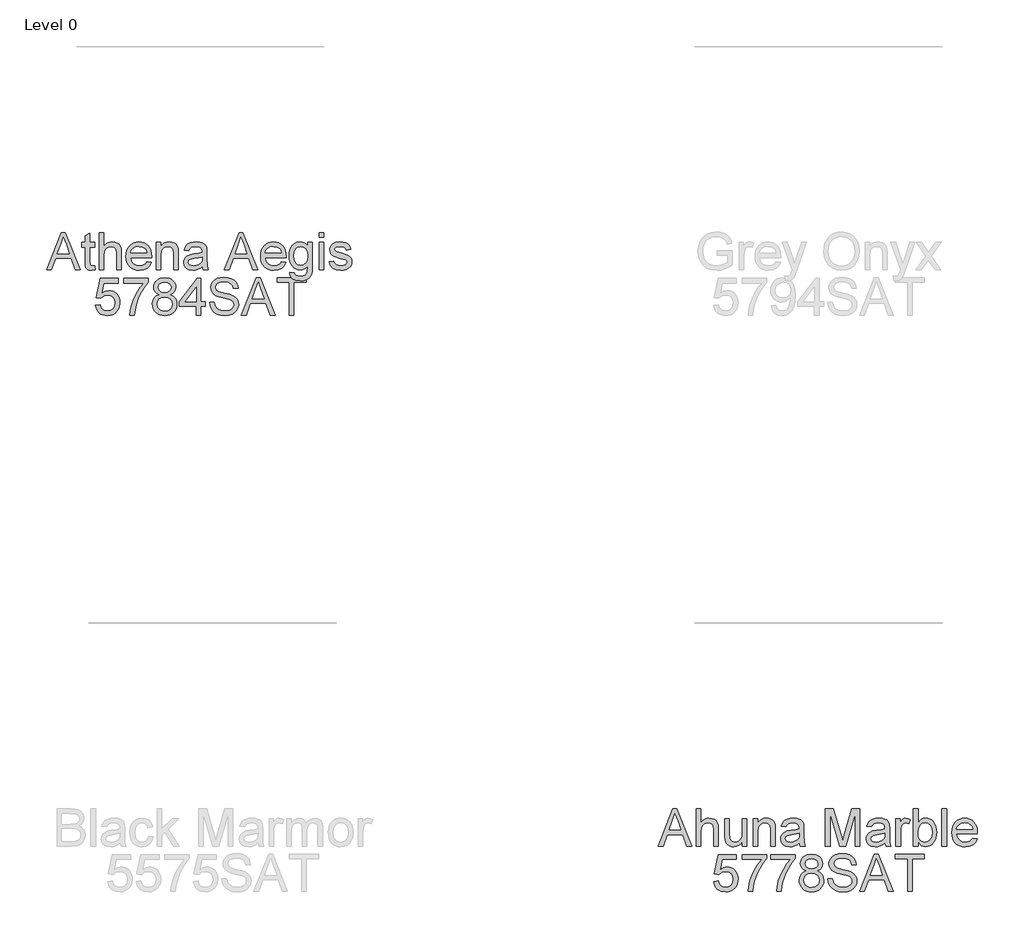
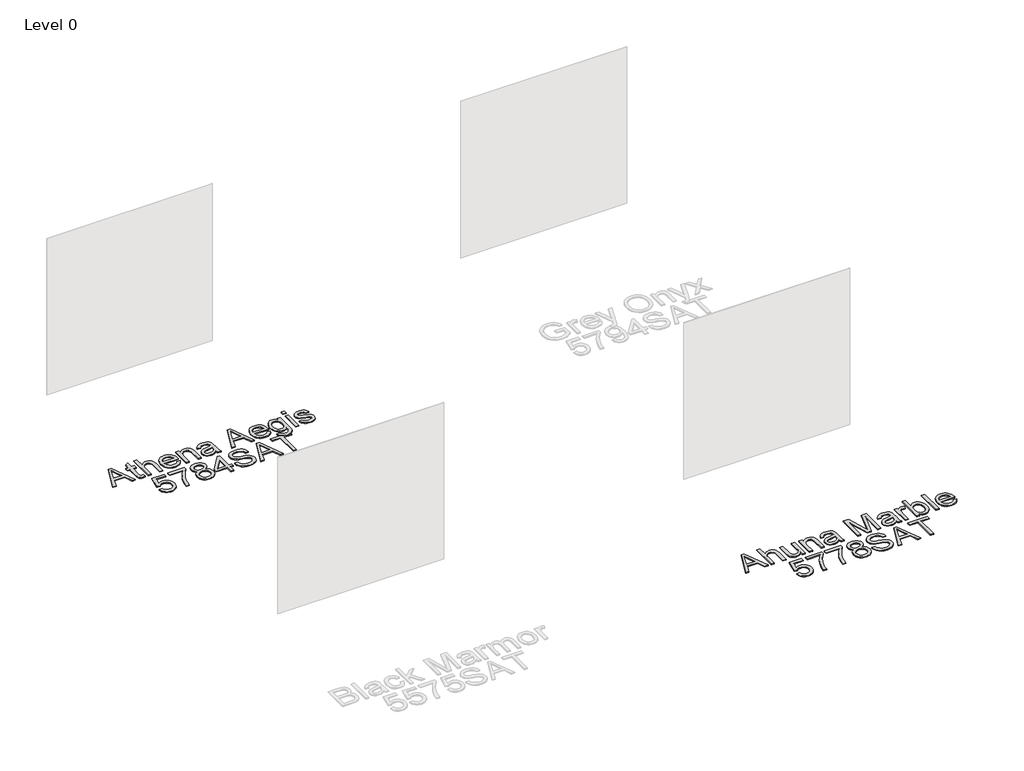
# One storey, part 5 of 29: 2 proxies.
"""IFC4 building model written with IfcOpenShell, lengths in millimetres."""

from ifc_helpers import new_model, si_unit, origin, origin_with_axes, place, context, project, spatial, polyline, outline, extrude, element, save

model = new_model("IFC4")

# Units and contexts
model_context = context("Model", 3, world=origin())
ifc_project = project(units=[si_unit("LENGTHUNIT", "METRE", prefix="MILLI")], contexts=[model_context])

# Site, building, storey
site = spatial("IfcSite", under=ifc_project)
building = spatial("IfcBuilding", under=site)
storey = spatial("IfcBuildingStorey", under=building, Name="Level 0", Elevation=0.0)

# Proxies
placement = place(None, origin())
element("IfcBuildingElementProxy", 1, Name="300mm Arial", ObjectType="300mm Arial", at=placement, inside=storey, context=model_context, shape_type="SweptSolid", body=[
    extrude(outline(polyline([(-10693.5841652, -27361.9454346), (-10573.2867528, -27060.5765041), (-10541.2074428, -27060.5765041), (-10420.9100304, -27361.9454346), (-10460.7148623, -27361.9454346), (-10495.2221934, -27267.7676438), (-10619.3455786, -27267.7676438), (-10653.7793333, -27361.9454346), (-10693.5841652, -27361.9454346)]), holes=[polyline([(-10605.5132156, -27230.0965275), (-10508.98098, -27230.0965275), (-10536.1306713, -27156.0050937), (-10557.2470978, -27098.2476204), (-10576.0090796, -27149.5303705), (-10605.5132156, -27230.0965275)])]), origin_with_axes(), (0.0, 0.0, 1.0), 10.0),
    extrude(outline(polyline([(-10305.3215075, -27330.5283122), (-10300.612618, -27363.0490805), (-10328.7923788, -27366.6543241), (-10346.8737789, -27365.0908256), (-10360.356654, -27360.4003302), (-10369.8847977, -27353.171449), (-10376.1020034, -27343.9927932), (-10379.5233059, -27328.2290497), (-10380.6637401, -27301.2449053), (-10380.6637401, -27178.2987426), (-10408.9170773, -27178.2987426), (-10408.9170773, -27140.6276263), (-10380.6637401, -27140.6276263), (-10380.6637401, -27086.8432786), (-10342.9926238, -27064.6967824), (-10342.9926238, -27140.6276263), (-10305.3215075, -27140.6276263), (-10305.3215075, -27178.2987426), (-10342.9926238, -27178.2987426), (-10342.9926238, -27300.1412594), (-10341.006061, -27319.5654287), (-10334.5681261, -27326.444822), (-10321.7290445, -27328.9832078), (-10305.3215075, -27330.5283122)])), origin_with_axes(), (0.0, 0.0, 1.0), 10.0),
    extrude(outline(polyline([(-10267.6503912, -27361.9454346), (-10267.6503912, -27060.5765041), (-10229.9792749, -27060.5765041), (-10229.9792749, -27171.382561), (-10216.1423133, -27155.8671379), (-10200.6038976, -27144.7846928), (-10183.3640276, -27138.1352257), (-10164.4227033, -27135.9187367), (-10141.6692019, -27138.3375608), (-10122.1162739, -27145.5940332), (-10106.7204124, -27157.1179367), (-10096.4381106, -27172.3390542), (-10090.6439692, -27193.2531457), (-10088.7125887, -27221.8559708), (-10088.7125887, -27361.9454346), (-10126.383705, -27361.9454346), (-10126.383705, -27225.7555199), (-10129.3819433, -27202.174284), (-10138.3766581, -27186.0242645), (-10152.8712087, -27176.6984559), (-10172.3689544, -27173.589853), (-10188.2890478, -27175.6867804), (-10203.2342538, -27181.9775625), (-10215.613483, -27191.8551941), (-10223.8356456, -27204.7126698), (-10228.4433676, -27221.8007885), (-10229.9792749, -27244.3703489), (-10229.9792749, -27361.9454346), (-10267.6503912, -27361.9454346)])), origin_with_axes(), (0.0, 0.0, 1.0), 10.0),
    extrude(outline(polyline([(-9881.9629075, -27296.020981), (-9845.0275551, -27300.7298706), (-9858.3356863, -27328.5601435), (-9879.5716745, -27349.3638703), (-9908.2572731, -27362.3317106), (-9943.9142354, -27366.6543241), (-9967.2885377, -27364.7896222), (-9988.1152572, -27359.1955166), (-10006.3943938, -27349.8720073), (-10022.1259476, -27336.8190943), (-10034.7764897, -27320.400061), (-10043.8125912, -27300.9781909), (-10049.2342521, -27278.553484), (-10051.0414724, -27253.1259404), (-10049.215858, -27226.8361733), (-10043.7390148, -27203.6642061), (-10034.6109428, -27183.6100389), (-10021.831642, -27166.6736715), (-10006.1414749, -27153.2183875), (-9988.2808041, -27143.6074704), (-9968.2496294, -27137.8409201), (-9946.047951, -27135.9187367), (-9924.5613432, -27137.8363216), (-9905.1302761, -27143.5890763), (-9887.7547496, -27153.1770008), (-9872.4347638, -27166.6000951), (-9859.9290752, -27183.4996743), (-9850.9964405, -27203.5170533), (-9845.6368597, -27226.6522323), (-9843.8503328, -27252.9052112), (-9844.0710619, -27263.0587542), (-10013.3703561, -27263.0587542), (-10006.8496478, -27291.2569092), (-9991.7021066, -27311.9870596), (-9969.8407191, -27324.7341707), (-9943.1784715, -27328.9832078), (-9923.1289027, -27327.0150391), (-9906.2431191, -27321.1105331), (-9892.5211207, -27310.9018077), (-9881.9629075, -27296.020981)]), holes=[polyline([(-10013.3703561, -27225.3876379), (-9881.5214491, -27225.3876379), (-9886.6166147, -27205.485222), (-9896.6046109, -27191.2481888), (-9918.567166, -27178.004437), (-9946.1951038, -27173.589853), (-9971.5881585, -27177.1123231), (-9992.5850234, -27187.6797334), (-10007.1807416, -27204.1516498), (-10013.3703561, -27225.3876379)])]), origin_with_axes(), (0.0, 0.0, 1.0), 10.0),
    extrude(outline(polyline([(-9806.1792164, -27361.9454346), (-9806.1792164, -27140.6276263), (-9768.5081001, -27140.6276263), (-9768.5081001, -27171.5297138), (-9755.4206982, -27155.9499114), (-9739.7029399, -27144.821481), (-9721.3548254, -27138.1444228), (-9700.3763546, -27135.9187367), (-9681.8075109, -27137.7121614), (-9664.8021657, -27143.0924356), (-9650.6203148, -27151.3881746), (-9640.521954, -27161.9279938), (-9629.2279768, -27189.629508), (-9627.241414, -27226.0498255), (-9627.241414, -27361.9454346), (-9664.9125303, -27361.9454346), (-9664.9125303, -27231.1265971), (-9669.2535378, -27197.7964883), (-9675.2592114, -27187.8728715), (-9684.594217, -27180.1749407), (-9696.5595789, -27175.2361249), (-9710.4563213, -27173.589853), (-9732.520044, -27177.2870671), (-9751.328011, -27188.3787092), (-9758.8443, -27197.4332048), (-9764.2130778, -27209.8078354), (-9768.5081001, -27244.5175017), (-9768.5081001, -27361.9454346), (-9806.1792164, -27361.9454346)])), origin_with_axes(), (0.0, 0.0, 1.0), 10.0),
    extrude(outline(polyline([(-9434.1769429, -27333.6920973), (-9452.1755695, -27349.124747), (-9470.707625, -27359.2231078), (-9490.1961737, -27364.79652), (-9511.0642799, -27366.6543241), (-9542.5457817, -27362.1845578), (-9565.7683326, -27348.7752591), (-9580.0881393, -27328.4129907), (-9584.8614081, -27303.0843153), (-9583.0587864, -27287.4677246), (-9577.650921, -27273.2858737), (-9569.3091968, -27261.1457679), (-9558.7049983, -27251.6544124), (-9532.3278592, -27239.2935774), (-9499.7335145, -27233.6281946), (-9461.2162696, -27227.6685063), (-9434.3976721, -27220.6787484), (-9434.1769429, -27212.2910389), (-9436.770511, -27195.4788317), (-9444.5512152, -27184.4791601), (-9461.9520336, -27176.3121798), (-9486.195457, -27173.589853), (-9508.6362587, -27175.4016718), (-9524.3080317, -27180.8371283), (-9534.9950037, -27190.8895038), (-9542.4814023, -27206.5520798), (-9580.1525186, -27201.8431903), (-9573.6134161, -27181.2417985), (-9563.8553462, -27165.0549907), (-9549.9678009, -27152.6757616), (-9531.0402723, -27143.4971058), (-9507.8912977, -27137.813329), (-9481.3394147, -27135.9187367), (-9455.8727836, -27137.5925998), (-9435.6852591, -27142.614189), (-9420.4641416, -27150.164967), (-9409.8967312, -27159.4263962), (-9402.8885792, -27170.8767233), (-9398.3452366, -27184.9941949), (-9396.5058266, -27217.9564216), (-9396.5058266, -27264.8245878), (-9394.5928402, -27330.2707948), (-9387.0880475, -27361.9454346), (-9424.7591638, -27361.9454346), (-9434.1769429, -27333.6920973)]), holes=[polyline([(-9434.1769429, -27258.3498647), (-9494.9510485, -27269.9013594), (-9527.3614523, -27276.0082005), (-9542.0399439, -27285.9410143), (-9547.1902918, -27300.435565), (-9544.3851916, -27311.6375717), (-9535.969891, -27320.8162275), (-9522.1283309, -27326.9414627), (-9503.0444524, -27328.9832078), (-9482.8109427, -27326.7299306), (-9464.9318777, -27319.9700989), (-9450.4373271, -27310.0096939), (-9440.3573604, -27298.1546966), (-9435.8875942, -27285.9410143), (-9434.3976721, -27269.0184426), (-9434.1769429, -27258.3498647)])]), origin_with_axes(), (0.0, 0.0, 1.0), 10.0),
    extrude(outline(polyline([(-9257.372856, -27361.9454346), (-9137.0754436, -27060.5765041), (-9104.9961336, -27060.5765041), (-8984.6987212, -27361.9454346), (-9024.5035531, -27361.9454346), (-9059.0108842, -27267.7676438), (-9183.1342694, -27267.7676438), (-9217.5680242, -27361.9454346), (-9257.372856, -27361.9454346)]), holes=[polyline([(-9169.3019064, -27230.0965275), (-9072.7696709, -27230.0965275), (-9099.9193621, -27156.0050937), (-9121.0357886, -27098.2476204), (-9139.7977704, -27149.5303705), (-9169.3019064, -27230.0965275)])]), origin_with_axes(), (0.0, 0.0, 1.0), 10.0),
    extrude(outline(polyline([(-8794.2094241, -27296.020981), (-8757.2740718, -27300.7298706), (-8770.582203, -27328.5601435), (-8791.8181911, -27349.3638703), (-8820.5037897, -27362.3317106), (-8856.1607521, -27366.6543241), (-8879.5350544, -27364.7896222), (-8900.3617738, -27359.1955166), (-8918.6409105, -27349.8720073), (-8934.3724643, -27336.8190943), (-8947.0230064, -27320.400061), (-8956.0591079, -27300.9781909), (-8961.4807688, -27278.553484), (-8963.2879891, -27253.1259404), (-8961.4623747, -27226.8361733), (-8955.9855315, -27203.6642061), (-8946.8574595, -27183.6100389), (-8934.0781587, -27166.6736715), (-8918.3879916, -27153.2183875), (-8900.5273207, -27143.6074704), (-8880.4961461, -27137.8409201), (-8858.2944677, -27135.9187367), (-8836.8078599, -27137.8363216), (-8817.3767928, -27143.5890763), (-8800.0012663, -27153.1770008), (-8784.6812804, -27166.6000951), (-8772.1755919, -27183.4996743), (-8763.2429572, -27203.5170533), (-8757.8833764, -27226.6522323), (-8756.0968494, -27252.9052112), (-8756.3175786, -27263.0587542), (-8925.6168728, -27263.0587542), (-8919.0961644, -27291.2569092), (-8903.9486233, -27311.9870596), (-8882.0872357, -27324.7341707), (-8855.4249881, -27328.9832078), (-8835.3754194, -27327.0150391), (-8818.4896358, -27321.1105331), (-8804.7676374, -27310.9018077), (-8794.2094241, -27296.020981)]), holes=[polyline([(-8925.6168728, -27225.3876379), (-8793.7679657, -27225.3876379), (-8798.8631314, -27205.485222), (-8808.8511275, -27191.2481888), (-8830.8136826, -27178.004437), (-8858.4416205, -27173.589853), (-8883.8346752, -27177.1123231), (-8904.8315401, -27187.6797334), (-8919.4272582, -27204.1516498), (-8925.6168728, -27225.3876379)])]), origin_with_axes(), (0.0, 0.0, 1.0), 10.0),
    extrude(outline(polyline([(-8727.8435122, -27380.7809927), (-8690.1723959, -27385.4898822), (-8686.0153293, -27397.2621061), (-8677.9587136, -27405.35551), (-8662.1213937, -27411.6462921), (-8641.3912433, -27413.7432195), (-8619.2815354, -27411.3703806), (-8602.8372102, -27404.251864), (-8591.4328684, -27392.8475221), (-8584.4431105, -27377.6172075), (-8581.8679365, -27333.6920973), (-8594.4035155, -27346.0529324), (-8608.3922284, -27354.8821002), (-8623.8340751, -27360.179601), (-8640.7290557, -27361.9454346), (-8661.3833305, -27359.8898939), (-8679.5681974, -27353.723272), (-8695.2836563, -27343.4455687), (-8708.5297074, -27329.0567842), (-8719.0396362, -27311.7939216), (-8726.5467282, -27292.8939841), (-8731.0509833, -27272.3569717), (-8732.5524017, -27250.1828844), (-8729.8576661, -27219.7682405), (-8721.7734593, -27191.8000118), (-8708.5848897, -27168.0992142), (-8690.5770661, -27150.4868637), (-8668.3661906, -27139.5607685), (-8642.5684657, -27135.9187367), (-8624.9515167, -27137.9788759), (-8608.9624454, -27144.1592934), (-8594.6012521, -27154.4599893), (-8581.8679365, -27168.8809635), (-8581.8679365, -27140.6276263), (-8544.1968202, -27140.6276263), (-8544.1968202, -27331.7055345), (-8546.7719942, -27375.8237828), (-8554.4975161, -27404.8772634), (-8567.8056472, -27424.1450829), (-8587.128649, -27438.9063479), (-8612.0434572, -27448.2873388), (-8642.1270073, -27451.4143358), (-8677.1769644, -27447.0089489), (-8704.7773111, -27433.7927882), (-8715.1722767, -27423.8714707), (-8722.4816321, -27411.7290655), (-8726.7053773, -27397.3655729), (-8727.8435122, -27380.7809927)]), holes=[polyline([(-8694.8812854, -27247.6077105), (-8690.8621746, -27282.1610268), (-8678.8048422, -27305.9170067), (-8660.6774569, -27319.6849904), (-8638.4481874, -27324.2743182), (-8616.3844647, -27319.7125815), (-8598.1651089, -27306.0273713), (-8585.9422296, -27282.5748941), (-8581.8679365, -27248.7113564), (-8586.0617912, -27216.0526323), (-8598.6433555, -27192.5357758), (-8617.1294257, -27178.3263337), (-8639.0367985, -27173.589853), (-8660.5486982, -27178.2527573), (-8678.584113, -27192.2414702), (-8690.8069923, -27215.4088388), (-8694.8812854, -27247.6077105)])]), origin_with_axes(), (0.0, 0.0, 1.0), 10.0),
    extrude(outline(polyline([(-8487.6901457, -27361.9454346), (-8487.6901457, -27140.6276263), (-8450.0190294, -27140.6276263), (-8450.0190294, -27361.9454346), (-8487.6901457, -27361.9454346)])), origin_with_axes(), (0.0, 0.0, 1.0), 10.0),
    extrude(outline(polyline([(-8487.6901457, -27098.2476204), (-8487.6901457, -27060.5765041), (-8450.0190294, -27060.5765041), (-8450.0190294, -27098.2476204), (-8487.6901457, -27098.2476204)])), origin_with_axes(), (0.0, 0.0, 1.0), 10.0),
    extrude(outline(polyline([(-8407.6390236, -27296.020981), (-8369.9679073, -27291.3120915), (-8364.0266131, -27307.4253229), (-8352.5303007, -27319.2711231), (-8335.4053938, -27326.5551866), (-8312.578316, -27328.9832078), (-8290.0271497, -27326.7575217), (-8274.1714357, -27320.0804635), (-8264.7904449, -27310.405167), (-8261.6634479, -27299.1847662), (-8264.808839, -27289.5830461), (-8274.2450121, -27282.2621944), (-8313.0197744, -27271.5200401), (-8369.7471781, -27253.0891522), (-8384.1037729, -27243.8277229), (-8394.5056364, -27231.5680555), (-8400.8240096, -27217.091899), (-8402.930134, -27201.1810027), (-8401.2378769, -27186.5852845), (-8396.1611053, -27173.1116064), (-8388.1596719, -27161.2933973), (-8377.6934292, -27151.6640861), (-8353.7443113, -27140.5172617), (-8321.3339075, -27135.9187367), (-8296.8145725, -27137.7673437), (-8275.4958109, -27143.3131648), (-8258.3525099, -27152.013574), (-8246.3595569, -27163.3259454), (-8238.4133058, -27178.0872104), (-8233.4101107, -27197.1343007), (-8271.081227, -27201.8431903), (-8275.8361018, -27189.988193), (-8285.2446838, -27181.0578575), (-8299.3989436, -27175.4568541), (-8318.3908516, -27173.589853), (-8340.0223129, -27175.3740807), (-8354.4432871, -27180.7267637), (-8362.5550851, -27188.4522856), (-8365.2590177, -27197.3550299), (-8360.7708574, -27208.3179134), (-8346.7177652, -27216.6320465), (-8314.2705732, -27224.651874), (-8258.9779093, -27242.3837861), (-8244.3729941, -27250.8634661), (-8233.2997461, -27262.4701431), (-8226.3191852, -27277.2406052), (-8223.9923316, -27295.2116406), (-8226.7238554, -27313.7896814), (-8234.9184268, -27331.2640762), (-8248.2633462, -27346.2644645), (-8266.4459138, -27357.420486), (-8288.4084689, -27364.3458646), (-8313.0933508, -27366.6543241), (-8351.0771668, -27362.2029519), (-8378.7970752, -27348.8488355), (-8397.3015395, -27326.7391276), (-8407.6390236, -27296.020981)])), origin_with_axes(), (0.0, 0.0, 1.0), 10.0),
    extrude(outline(polyline([(-10298.2581732, -27647.8187659), (-10260.5870569, -27643.1098764), (-10253.6708754, -27665.7254221), (-10241.6043459, -27681.9214269), (-10224.4426509, -27691.6611027), (-10202.2409725, -27694.9076613), (-10175.238434, -27690.3919098), (-10155.0049243, -27676.8446554), (-10142.3681777, -27655.8293964), (-10138.1559289, -27628.9096314), (-10142.1014633, -27603.5625619), (-10153.9380665, -27584.1751808), (-10173.757709, -27571.869528), (-10201.6523613, -27567.7676438), (-10219.9268994, -27569.4047187), (-10234.7249526, -27574.3159433), (-10255.8781674, -27591.3120915), (-10293.5492837, -27586.6032019), (-10260.5870569, -27431.2098472), (-10114.6114812, -27431.2098472), (-10114.6114812, -27468.8809635), (-10230.1264277, -27468.8809635), (-10246.2396591, -27551.8751416), (-10219.3290911, -27535.541181), (-10191.1309362, -27530.0965275), (-10172.785121, -27531.7841861), (-10155.9338263, -27536.8471621), (-10140.5770523, -27545.2854554), (-10126.7147988, -27557.0990659), (-10115.2391799, -27571.5660254), (-10107.0423092, -27587.9643653), (-10102.1241867, -27606.2940857), (-10100.4848126, -27626.5551866), (-10106.3893186, -27664.2263029), (-10113.7699511, -27681.020116), (-10124.1028367, -27696.4527657), (-10139.7562156, -27712.2578959), (-10158.0215566, -27723.5472746), (-10178.8988599, -27730.3209019), (-10202.3881253, -27732.5787776), (-10239.3878569, -27726.7754392), (-10255.0665277, -27719.5212661), (-10268.8644018, -27709.3654237), (-10280.3446193, -27696.8137499), (-10289.0703204, -27682.3720823), (-10298.2581732, -27647.8187659)])), origin_with_axes(), (0.0, 0.0, 1.0), 10.0),
    extrude(outline(polyline([(-10067.5225858, -27468.8809635), (-10067.5225858, -27431.2098472), (-9869.7492252, -27431.2098472), (-9869.7492252, -27461.6704764), (-9897.9381831, -27497.3458329), (-9925.8512295, -27542.7148799), (-9950.471732, -27593.6389451), (-9968.7830583, -27645.979356), (-9977.759379, -27685.1403943), (-9982.7625741, -27727.8698881), (-10020.4336904, -27727.8698881), (-10016.3593973, -27689.0399435), (-10005.4608932, -27642.8891472), (-9988.0324837, -27593.9700389), (-9964.3684744, -27546.8351583), (-9936.7405365, -27504.2252262), (-9907.4203415, -27468.8809635), (-10067.5225858, -27468.8809635)])), origin_with_axes(), (0.0, 0.0, 1.0), 10.0),
    extrude(outline(polyline([(-9781.8990048, -27561.8815319), (-9802.0681352, -27551.948718), (-9816.2223949, -27538.484237), (-9824.5825133, -27521.7640003), (-9827.3692194, -27502.0639194), (-9825.8517061, -27486.7002476), (-9821.2991664, -27472.6149657), (-9813.7116003, -27459.8080738), (-9803.0890077, -27448.2795718), (-9789.9418249, -27438.7514281), (-9774.7804882, -27431.9456112), (-9738.4153529, -27426.5009576), (-9701.8294885, -27432.0743699), (-9686.5026049, -27439.0411351), (-9673.153087, -27448.7946065), (-9662.3373563, -27460.5484363), (-9654.6118344, -27473.5162766), (-9649.9765213, -27487.6981275), (-9648.4314169, -27503.093989), (-9651.1813348, -27522.1594734), (-9659.4310886, -27538.5946016), (-9673.2726486, -27551.9763091), (-9692.7979855, -27561.8815319), (-9669.6122228, -27573.8284997), (-9652.7356363, -27591.4224561), (-9642.4441374, -27613.8172725), (-9639.0136378, -27640.1668204), (-9640.7150921, -27658.9563933), (-9645.8194547, -27676.1824678), (-9654.3267259, -27691.8450437), (-9666.2369055, -27705.9441212), (-9680.9245941, -27717.5967834), (-9697.7643925, -27725.9201135), (-9716.7563005, -27730.9141116), (-9737.9003181, -27732.5787776), (-9759.0443358, -27730.9072138), (-9778.0362438, -27725.8925224), (-9794.8760421, -27717.5347033), (-9809.5637308, -27705.8337566), (-9821.4739104, -27691.6358108), (-9829.9811815, -27675.7869946), (-9835.0855442, -27658.287308), (-9836.7869984, -27639.1367509), (-9833.2185431, -27611.7663304), (-9822.513177, -27589.2519523), (-9805.2227233, -27572.3661687), (-9781.8990048, -27561.8815319)]), holes=[polyline([(-9789.6981031, -27503.1675654), (-9786.359574, -27519.6118906), (-9776.3439866, -27532.7452778), (-9759.9456467, -27541.3537165), (-9737.4588597, -27544.2231961), (-9715.4963046, -27541.3721106), (-9699.346285, -27532.8188542), (-9689.4134712, -27520.1269254), (-9686.1025332, -27504.8598226), (-9689.5238358, -27489.0133057), (-9699.7877434, -27475.9075096), (-9716.1584922, -27467.1059329), (-9737.9003181, -27464.1720739), (-9759.7800998, -27467.0415535), (-9776.1232574, -27475.6499922), (-9786.3043917, -27488.2683446), (-9789.6981031, -27503.1675654)]), polyline([(-9799.1158821, -27637.8123757), (-9792.8251, -27666.1760775), (-9784.1154938, -27678.3437745), (-9770.5682393, -27687.4028686), (-9754.3446433, -27693.0314631), (-9737.6060125, -27694.9076613), (-9711.9646375, -27690.9621269), (-9692.7244091, -27679.1255237), (-9680.6946679, -27661.2004735), (-9676.6847541, -27638.9895981), (-9680.8234266, -27616.4016435), (-9693.2394439, -27598.0811202), (-9712.9211307, -27585.9410143), (-9738.8568113, -27581.8943124), (-9764.1395014, -27585.885832), (-9783.1865917, -27597.860391), (-9795.1335595, -27615.8314265), (-9799.1158821, -27637.8123757)])]), origin_with_axes(), (0.0, 0.0, 1.0), 10.0),
    extrude(outline(polyline([(-9483.6202831, -27727.8698881), (-9483.6202831, -27657.236545), (-9620.1780797, -27657.236545), (-9620.1780797, -27619.5654287), (-9474.202504, -27431.2098472), (-9445.9491668, -27431.2098472), (-9445.9491668, -27619.5654287), (-9408.2780505, -27619.5654287), (-9408.2780505, -27657.236545), (-9445.9491668, -27657.236545), (-9445.9491668, -27727.8698881), (-9483.6202831, -27727.8698881)]), holes=[polyline([(-9483.6202831, -27619.5654287), (-9483.6202831, -27503.1675654), (-9573.8249483, -27619.5654287), (-9483.6202831, -27619.5654287)])]), origin_with_axes(), (0.0, 0.0, 1.0), 10.0),
    extrude(outline(polyline([(-9375.3158237, -27624.2743182), (-9337.6447074, -27624.2743182), (-9333.3220939, -27645.1792126), (-9325.5046015, -27661.9822228), (-9313.3093134, -27675.3179451), (-9295.8533127, -27685.820976), (-9274.516157, -27692.63599), (-9250.6774037, -27694.9076613), (-9229.6897359, -27693.187813), (-9211.3140302, -27688.028268), (-9196.4240065, -27679.8612877), (-9185.8933844, -27669.1191335), (-9179.6301934, -27656.7858896), (-9177.5424631, -27643.8456404), (-9179.1059616, -27631.236485), (-9183.796457, -27620.3379809), (-9193.3246007, -27611.0397635), (-9209.4010439, -27603.2314681), (-9264.2522494, -27588.8472821), (-9300.2586996, -27579.3283355), (-9323.2973096, -27570.2692414), (-9342.0500943, -27557.5957066), (-9355.3398314, -27542.2366333), (-9363.2584913, -27524.5231153), (-9365.8980446, -27504.7862462), (-9362.6330919, -27482.7225236), (-9352.8382338, -27462.148723), (-9336.7709877, -27444.7111164), (-9314.6888709, -27432.0559758), (-9288.1829731, -27424.358045), (-9258.844384, -27421.7920681), (-9227.0593796, -27424.4776067), (-9199.2475008, -27432.5342224), (-9176.4020289, -27445.7963683), (-9159.5162453, -27464.0984975), (-9148.8292734, -27486.300176), (-9144.5802363, -27511.2609693), (-9182.2513526, -27511.2609693), (-9189.1675341, -27488.7833794), (-9203.5885083, -27472.5597834), (-9226.1212806, -27462.7373342), (-9257.372856, -27459.4631844), (-9289.3601955, -27462.700546), (-9311.3043565, -27472.4126306), (-9323.9962854, -27486.7048461), (-9328.2269283, -27503.6826002), (-9325.2286901, -27518.1587567), (-9316.2339753, -27529.8022219), (-9294.9703959, -27540.2132823), (-9254.7241057, -27550.845072), (-9213.1902284, -27560.9434328), (-9188.0638882, -27569.7542066), (-9166.5887767, -27583.4210227), (-9151.6067824, -27600.2884122), (-9142.8052057, -27620.172434), (-9139.8713468, -27642.8891472), (-9143.2466641, -27666.1116981), (-9153.372616, -27687.9546916), (-9169.8353353, -27706.7534616), (-9192.2209547, -27720.843342), (-9219.1407197, -27729.6449187), (-9249.2058757, -27732.5787776), (-9286.1136369, -27729.4149925), (-9316.4914927, -27719.923637), (-9340.6889309, -27704.067923), (-9359.0554395, -27681.8110623), (-9370.8460575, -27654.6981592), (-9375.3158237, -27624.2743182)])), origin_with_axes(), (0.0, 0.0, 1.0), 10.0),
    extrude(outline(polyline([(-9118.4606147, -27727.8698881), (-8998.1632022, -27426.5009576), (-8966.0838923, -27426.5009576), (-8845.7864798, -27727.8698881), (-8885.5913117, -27727.8698881), (-8920.0986429, -27633.6920973), (-9044.222028, -27633.6920973), (-9078.6557828, -27727.8698881), (-9118.4606147, -27727.8698881)]), holes=[polyline([(-9030.389665, -27596.020981), (-8933.8574295, -27596.020981), (-8961.0071207, -27521.9295472), (-8982.1235473, -27464.1720739), (-9000.885529, -27515.4548241), (-9030.389665, -27596.020981)])]), origin_with_axes(), (0.0, 0.0, 1.0), 10.0),
    extrude(outline(polyline([(-8730.197957, -27727.8698881), (-8730.197957, -27464.1720739), (-8829.0846373, -27464.1720739), (-8829.0846373, -27426.5009576), (-8593.6401603, -27426.5009576), (-8593.6401603, -27464.1720739), (-8692.5268406, -27464.1720739), (-8692.5268406, -27727.8698881), (-8730.197957, -27727.8698881)])), origin_with_axes(), (0.0, 0.0, 1.0), 10.0),
])
element("IfcBuildingElementProxy", 2, Name="300mm Arial", ObjectType="300mm Arial", at=placement, inside=storey, context=model_context, shape_type="SweptSolid", body=[
    extrude(outline(polyline([(-5747.7363949, -32022.860494), (-5627.4389825, -31721.4915635), (-5595.3596725, -31721.4915635), (-5475.0622601, -32022.860494), (-5514.867092, -32022.860494), (-5549.3744231, -31928.6827032), (-5673.4978083, -31928.6827032), (-5707.931563, -32022.860494), (-5747.7363949, -32022.860494)]), holes=[polyline([(-5659.6654453, -31891.0115869), (-5563.1332097, -31891.0115869), (-5590.282901, -31816.9201531), (-5611.3993275, -31759.1626798), (-5630.1613092, -31810.44543), (-5659.6654453, -31891.0115869)])]), origin_with_axes(), (0.0, 0.0, 1.0), 10.0),
    extrude(outline(polyline([(-5439.5248593, -32022.860494), (-5439.5248593, -31721.4915635), (-5401.853743, -31721.4915635), (-5401.853743, -31832.2976205), (-5388.0167815, -31816.7821973), (-5372.4783657, -31805.6997522), (-5355.2384957, -31799.0502852), (-5336.2971715, -31796.8337961), (-5313.5436701, -31799.2526203), (-5293.9907421, -31806.5090926), (-5278.5948806, -31818.0329961), (-5268.3125788, -31833.2541137), (-5262.5184374, -31854.1682051), (-5260.5870569, -31882.7710302), (-5260.5870569, -32022.860494), (-5298.2581732, -32022.860494), (-5298.2581732, -31886.6705794), (-5301.2564115, -31863.0893435), (-5310.2511262, -31846.9393239), (-5324.7456768, -31837.6135153), (-5344.2434226, -31834.5049125), (-5360.1635159, -31836.6018398), (-5375.108722, -31842.8926219), (-5387.4879511, -31852.7702535), (-5395.7101137, -31865.6277292), (-5400.3178357, -31882.7158479), (-5401.853743, -31905.2854083), (-5401.853743, -32022.860494), (-5439.5248593, -32022.860494)])), origin_with_axes(), (0.0, 0.0, 1.0), 10.0),
    extrude(outline(polyline([(-5067.5225858, -32022.860494), (-5067.5225858, -31984.8214957), (-5081.1526137, -32003.5236966), (-5097.0267218, -32016.8824116), (-5115.1449101, -32024.8976405), (-5135.5071785, -32027.5693835), (-5153.855293, -32025.6931853), (-5170.9342147, -32020.0645908), (-5185.2632184, -32011.6033049), (-5195.3615791, -32001.2290327), (-5206.58198, -31973.4907302), (-5208.789272, -31938.4683643), (-5208.789272, -31801.5426857), (-5171.1181557, -31801.5426857), (-5171.1181557, -31920.7364521), (-5168.8372873, -31959.1433324), (-5163.3466485, -31971.9548229), (-5153.9380665, -31981.6944987), (-5141.2369406, -31987.8473251), (-5125.8686703, -31989.8982672), (-5109.6174831, -31987.8013398), (-5094.4147597, -31981.5105577), (-5081.8791807, -31971.605335), (-5073.6294269, -31958.6650858), (-5069.0492961, -31940.9423707), (-5067.5225858, -31916.6897502), (-5067.5225858, -31801.5426857), (-5029.8514695, -31801.5426857), (-5029.8514695, -32022.860494), (-5067.5225858, -32022.860494)])), origin_with_axes(), (0.0, 0.0, 1.0), 10.0),
    extrude(outline(polyline([(-4978.0536846, -32022.860494), (-4978.0536846, -31801.5426857), (-4940.3825683, -31801.5426857), (-4940.3825683, -31832.4447733), (-4927.2951663, -31816.8649708), (-4911.5774081, -31805.7365404), (-4893.2292936, -31799.0594822), (-4872.2508228, -31796.8337961), (-4853.6819791, -31798.6272209), (-4836.6766338, -31804.0074951), (-4822.4947829, -31812.303234), (-4812.3964222, -31822.8430532), (-4801.1024449, -31850.5445674), (-4799.1158821, -31886.964885), (-4799.1158821, -32022.860494), (-4836.7869984, -32022.860494), (-4836.7869984, -31892.0416565), (-4841.128006, -31858.7115477), (-4847.1336796, -31848.7879309), (-4856.4686852, -31841.0900002), (-4868.4340471, -31836.1511844), (-4882.3307894, -31834.5049125), (-4904.3945121, -31838.2021265), (-4923.2024791, -31849.2937687), (-4930.7187681, -31858.3482643), (-4936.087546, -31870.7228949), (-4940.3825683, -31905.4325611), (-4940.3825683, -32022.860494), (-4978.0536846, -32022.860494)])), origin_with_axes(), (0.0, 0.0, 1.0), 10.0),
    extrude(outline(polyline([(-4606.0514111, -31994.6071568), (-4624.0500377, -32010.0398064), (-4642.5820932, -32020.1381672), (-4662.0706419, -32025.7115794), (-4682.9387481, -32027.5693835), (-4714.4202498, -32023.0996173), (-4737.6428007, -32009.6903186), (-4751.9626074, -31989.3280501), (-4756.7358763, -31963.9993748), (-4754.9332545, -31948.3827841), (-4749.5253892, -31934.2009331), (-4741.1836649, -31922.0608273), (-4730.5794664, -31912.5694718), (-4704.2023274, -31900.2086368), (-4671.6079826, -31894.5432541), (-4633.0907377, -31888.5835657), (-4606.2721403, -31881.5938078), (-4606.0514111, -31873.2060983), (-4608.6449791, -31856.3938912), (-4616.4256833, -31845.3942195), (-4633.8265017, -31837.2272392), (-4658.0699252, -31834.5049125), (-4680.5107269, -31836.3167313), (-4696.1824999, -31841.7521878), (-4706.8694718, -31851.8045633), (-4714.3558705, -31867.4671392), (-4752.0269868, -31862.7582497), (-4745.4878843, -31842.156858), (-4735.7298144, -31825.9700502), (-4721.8422691, -31813.590821), (-4702.9147404, -31804.4121652), (-4679.7657659, -31798.7283884), (-4653.2138829, -31796.8337961), (-4627.7472517, -31798.5076592), (-4607.5597273, -31803.5292485), (-4592.3386097, -31811.0800264), (-4581.7711994, -31820.3414556), (-4574.7630474, -31831.7917827), (-4570.2197047, -31845.9092543), (-4568.3802948, -31878.8714811), (-4568.3802948, -31925.7396473), (-4566.4673084, -31991.1858542), (-4558.9625157, -32022.860494), (-4596.633632, -32022.860494), (-4606.0514111, -31994.6071568)]), holes=[polyline([(-4606.0514111, -31919.2649241), (-4666.8255167, -31930.8164188), (-4699.2359204, -31936.9232599), (-4713.9144121, -31946.8560738), (-4719.06476, -31961.3506244), (-4716.2596598, -31972.5526311), (-4707.8443591, -31981.7312869), (-4694.0027991, -31987.8565221), (-4674.9189206, -31989.8982672), (-4654.6854108, -31987.64499), (-4636.8063459, -31980.8851583), (-4622.3117953, -31970.9247533), (-4612.2318286, -31959.069756), (-4607.7620623, -31946.8560738), (-4606.2721403, -31929.933502), (-4606.0514111, -31919.2649241)])]), origin_with_axes(), (0.0, 0.0, 1.0), 10.0),
    extrude(outline(polyline([(-4394.1513818, -32022.860494), (-4394.1513818, -31721.4915635), (-4329.3305743, -31721.4915635), (-4267.6735519, -31933.9066275), (-4255.2391405, -31978.2731962), (-4241.7746594, -31930.2278076), (-4181.1477066, -31721.4915635), (-4116.3268991, -31721.4915635), (-4116.3268991, -32022.860494), (-4153.9980154, -32022.860494), (-4153.9980154, -31759.1626798), (-4229.70813, -32022.860494), (-4280.7701509, -32022.860494), (-4356.4802655, -31759.1626798), (-4356.4802655, -32022.860494), (-4394.1513818, -32022.860494)])), origin_with_axes(), (0.0, 0.0, 1.0), 10.0),
    extrude(outline(polyline([(-3913.8446489, -31994.6071568), (-3931.8432756, -32010.0398064), (-3950.3753311, -32020.1381672), (-3969.8638798, -32025.7115794), (-3990.7319859, -32027.5693835), (-4022.2134877, -32023.0996173), (-4045.4360386, -32009.6903186), (-4059.7558453, -31989.3280501), (-4064.5291142, -31963.9993748), (-4062.7264924, -31948.3827841), (-4057.3186271, -31934.2009331), (-4048.9769028, -31922.0608273), (-4038.3727043, -31912.5694718), (-4011.9955653, -31900.2086368), (-3979.4012205, -31894.5432541), (-3940.8839756, -31888.5835657), (-3914.0653781, -31881.5938078), (-3913.8446489, -31873.2060983), (-3916.438217, -31856.3938912), (-3924.2189212, -31845.3942195), (-3941.6197396, -31837.2272392), (-3965.8631631, -31834.5049125), (-3988.3039648, -31836.3167313), (-4003.9757378, -31841.7521878), (-4014.6627097, -31851.8045633), (-4022.1491083, -31867.4671392), (-4059.8202246, -31862.7582497), (-4053.2811222, -31842.156858), (-4043.5230522, -31825.9700502), (-4029.6355069, -31813.590821), (-4010.7079783, -31804.4121652), (-3987.5590037, -31798.7283884), (-3961.0071207, -31796.8337961), (-3935.5404896, -31798.5076592), (-3915.3529651, -31803.5292485), (-3900.1318476, -31811.0800264), (-3889.5644373, -31820.3414556), (-3882.5562853, -31831.7917827), (-3878.0129426, -31845.9092543), (-3876.1735326, -31878.8714811), (-3876.1735326, -31925.7396473), (-3874.2605463, -31991.1858542), (-3866.7557536, -32022.860494), (-3904.4268699, -32022.860494), (-3913.8446489, -31994.6071568)]), holes=[polyline([(-3913.8446489, -31919.2649241), (-3974.6187545, -31930.8164188), (-4007.0291583, -31936.9232599), (-4021.7076499, -31946.8560738), (-4026.8579979, -31961.3506244), (-4024.0528977, -31972.5526311), (-4015.637597, -31981.7312869), (-4001.7960369, -31987.8565221), (-3982.7121584, -31989.8982672), (-3962.4786487, -31987.64499), (-3944.5995837, -31980.8851583), (-3930.1050331, -31970.9247533), (-3920.0250665, -31959.069756), (-3915.5553002, -31946.8560738), (-3914.0653781, -31929.933502), (-3913.8446489, -31919.2649241)])]), origin_with_axes(), (0.0, 0.0, 1.0), 10.0),
    extrude(outline(polyline([(-3824.3757477, -32022.860494), (-3824.3757477, -31801.5426857), (-3791.413521, -31801.5426857), (-3791.413521, -31834.2841833), (-3779.2366269, -31815.3014723), (-3768.0162261, -31804.1178596), (-3756.759037, -31798.654812), (-3744.4717784, -31796.8337961), (-3725.7097966, -31799.7400639), (-3706.6535093, -31808.4588672), (-3719.2350735, -31842.2304343), (-3732.4788253, -31836.4362929), (-3745.7225771, -31834.5049125), (-3756.9705692, -31836.3627165), (-3767.0229447, -31841.9361288), (-3775.1439397, -31850.8020848), (-3780.5977903, -31862.5375205), (-3785.1779211, -31883.5803706), (-3786.7046314, -31906.5362071), (-3786.7046314, -32022.860494), (-3824.3757477, -32022.860494)])), origin_with_axes(), (0.0, 0.0, 1.0), 10.0),
    extrude(outline(polyline([(-3645.4379453, -32022.860494), (-3683.1090616, -32022.860494), (-3683.1090616, -31721.4915635), (-3645.4379453, -31721.4915635), (-3645.4379453, -31833.2541137), (-3633.0495191, -31817.3202248), (-3619.0608062, -31805.9388755), (-3603.4718067, -31799.110066), (-3586.2825204, -31796.8337961), (-3566.8767452, -31798.8847383), (-3548.5378277, -31805.0375646), (-3532.3142317, -31814.9059992), (-3519.2544209, -31828.1037657), (-3509.0181044, -31844.5021057), (-3501.2649914, -31863.9722603), (-3496.3813579, -31885.7048891), (-3494.75348, -31908.8906519), (-3496.4388394, -31935.64487), (-3501.4949176, -31959.1801206), (-3509.9217146, -31979.4964038), (-3521.7192303, -31996.5937195), (-3535.8803878, -32010.1455725), (-3551.3981102, -32019.8254675), (-3568.2723975, -32025.6334045), (-3586.5032496, -32027.5693835), (-3604.2581544, -32025.0723845), (-3619.9989053, -32017.5813874), (-3633.7255022, -32005.0963921), (-3645.4379453, -31987.6173988), (-3645.4379453, -32022.860494)]), holes=[polyline([(-3645.4379453, -31910.6564855), (-3642.8627713, -31942.0736078), (-3635.1372494, -31963.3371872), (-3626.0091774, -31974.9576597), (-3615.4003804, -31983.2579972), (-3603.3108583, -31988.2381997), (-3589.7406112, -31989.8982672), (-3567.9987853, -31985.0054367), (-3549.4207445, -31970.3269451), (-3536.6736334, -31945.9547629), (-3532.4245963, -31911.9808606), (-3536.4988894, -31877.5103177), (-3548.7217687, -31853.414047), (-3566.7203953, -31839.2321961), (-3588.1219304, -31834.5049125), (-3609.8637563, -31839.397743), (-3628.4417971, -31854.0762346), (-3641.1889082, -31878.0069584), (-3645.4379453, -31910.6564855)])]), origin_with_axes(), (0.0, 0.0, 1.0), 10.0),
    extrude(outline(polyline([(-3452.3734742, -32022.860494), (-3452.3734742, -31721.4915635), (-3414.7023579, -31721.4915635), (-3414.7023579, -32022.860494), (-3452.3734742, -32022.860494)])), origin_with_axes(), (0.0, 0.0, 1.0), 10.0),
    extrude(outline(polyline([(-3203.2437871, -31956.9360404), (-3166.3084347, -31961.64493), (-3179.6165659, -31989.4752029), (-3200.8525541, -32010.2789297), (-3229.5381527, -32023.2467701), (-3265.195115, -32027.5693835), (-3288.5694173, -32025.7046817), (-3309.3961368, -32020.1105761), (-3327.6752734, -32010.7870668), (-3343.4068272, -31997.7341537), (-3356.0573693, -31981.3151204), (-3365.0934708, -31961.8932503), (-3370.5151317, -31939.4685435), (-3372.322352, -31914.0409998), (-3370.4967376, -31887.7512327), (-3365.0198944, -31864.5792656), (-3355.8918224, -31844.5250983), (-3343.1125216, -31827.5887309), (-3327.4223545, -31814.133447), (-3309.5616837, -31804.5225298), (-3289.530509, -31798.7559796), (-3267.3288306, -31796.8337961), (-3245.8422228, -31798.751381), (-3226.4111557, -31804.5041357), (-3209.0356292, -31814.0920602), (-3193.7156434, -31827.5151545), (-3181.2099548, -31844.4147337), (-3172.2773201, -31864.4321128), (-3166.9177393, -31887.5672917), (-3165.1312124, -31913.8202706), (-3165.3519416, -31923.9738137), (-3334.6512357, -31923.9738137), (-3328.1305274, -31952.1719686), (-3312.9829862, -31972.902119), (-3291.1215987, -31985.6492302), (-3264.4593511, -31989.8982672), (-3244.4097823, -31987.9300985), (-3227.5239987, -31982.0255925), (-3213.8020003, -31971.8168672), (-3203.2437871, -31956.9360404)]), holes=[polyline([(-3334.6512357, -31886.3026974), (-3202.8023287, -31886.3026974), (-3207.8974943, -31866.4002814), (-3217.8854905, -31852.1632482), (-3239.8480456, -31838.9194964), (-3267.4759834, -31834.5049125), (-3292.8690381, -31838.0273826), (-3313.865903, -31848.5947929), (-3328.4616212, -31865.0667092), (-3334.6512357, -31886.3026974)])]), origin_with_axes(), (0.0, 0.0, 1.0), 10.0),
    extrude(outline(polyline([(-5298.2581732, -32308.7338254), (-5260.5870569, -32304.0249358), (-5253.6708754, -32326.6404815), (-5241.6043459, -32342.8364863), (-5224.4426509, -32352.5761621), (-5202.2409725, -32355.8227207), (-5175.238434, -32351.3069693), (-5155.0049243, -32337.7597148), (-5142.3681777, -32316.7444558), (-5138.1559289, -32289.8246908), (-5142.1014633, -32264.4776213), (-5153.9380665, -32245.0902402), (-5173.757709, -32232.7845875), (-5201.6523613, -32228.6827032), (-5219.9268994, -32230.3197781), (-5234.7249526, -32235.2310027), (-5255.8781674, -32252.2271509), (-5293.5492837, -32247.5182614), (-5260.5870569, -32092.1249066), (-5114.6114812, -32092.1249066), (-5114.6114812, -32129.7960229), (-5230.1264277, -32129.7960229), (-5246.2396591, -32212.790201), (-5219.3290911, -32196.4562404), (-5191.1309362, -32191.0115869), (-5172.785121, -32192.6992456), (-5155.9338263, -32197.7622215), (-5140.5770523, -32206.2005148), (-5126.7147988, -32218.0141254), (-5115.2391799, -32232.4810848), (-5107.0423092, -32248.8794248), (-5102.1241867, -32267.2091452), (-5100.4848126, -32287.470246), (-5106.3893186, -32325.1413624), (-5113.7699511, -32341.9351754), (-5124.1028367, -32357.3678251), (-5139.7562156, -32373.1729553), (-5158.0215566, -32384.4623341), (-5178.8988599, -32391.2359613), (-5202.3881253, -32393.4938371), (-5239.3878569, -32387.6904986), (-5255.0665277, -32380.4363255), (-5268.8644018, -32370.2804832), (-5280.3446193, -32357.7288093), (-5289.0703204, -32343.2871418), (-5298.2581732, -32308.7338254)])), origin_with_axes(), (0.0, 0.0, 1.0), 10.0),
    extrude(outline(polyline([(-5067.5225858, -32129.7960229), (-5067.5225858, -32092.1249066), (-4869.7492252, -32092.1249066), (-4869.7492252, -32122.5855358), (-4897.9381831, -32158.2608923), (-4925.8512295, -32203.6299393), (-4950.471732, -32254.5540045), (-4968.7830583, -32306.8944154), (-4977.759379, -32346.0554538), (-4982.7625741, -32388.7849475), (-5020.4336904, -32388.7849475), (-5016.3593973, -32349.9550029), (-5005.4608932, -32303.8042066), (-4988.0324837, -32254.8850983), (-4964.3684744, -32207.7502177), (-4936.7405365, -32165.1402856), (-4907.4203415, -32129.7960229), (-5067.5225858, -32129.7960229)])), origin_with_axes(), (0.0, 0.0, 1.0), 10.0),
    extrude(outline(polyline([(-4836.7869984, -32129.7960229), (-4836.7869984, -32092.1249066), (-4639.0136378, -32092.1249066), (-4639.0136378, -32122.5855358), (-4667.2025957, -32158.2608923), (-4695.1156421, -32203.6299393), (-4719.7361446, -32254.5540045), (-4738.0474709, -32306.8944154), (-4747.0237916, -32346.0554538), (-4752.0269868, -32388.7849475), (-4789.6981031, -32388.7849475), (-4785.62381, -32349.9550029), (-4774.7253059, -32303.8042066), (-4757.2968963, -32254.8850983), (-4733.632887, -32207.7502177), (-4706.0049492, -32165.1402856), (-4676.6847541, -32129.7960229), (-4836.7869984, -32129.7960229)])), origin_with_axes(), (0.0, 0.0, 1.0), 10.0),
    extrude(outline(polyline([(-4551.1634174, -32222.7965913), (-4571.3325478, -32212.8637774), (-4585.4868075, -32199.3992964), (-4593.8469259, -32182.6790597), (-4596.633632, -32162.9789789), (-4595.1161188, -32147.6153071), (-4590.5635791, -32133.5300252), (-4582.9760129, -32120.7231332), (-4572.3534203, -32109.1946312), (-4559.2062375, -32099.6664875), (-4544.0449008, -32092.8606706), (-4507.6797656, -32087.4160171), (-4471.0939011, -32092.9894293), (-4455.7670175, -32099.9561946), (-4442.4174996, -32109.709666), (-4431.601769, -32121.4634957), (-4423.8762471, -32134.4313361), (-4419.2409339, -32148.613187), (-4417.6958295, -32164.0090485), (-4420.4457475, -32183.0745329), (-4428.6955012, -32199.509661), (-4442.5370613, -32212.8913686), (-4462.0623982, -32222.7965913), (-4438.8766354, -32234.7435591), (-4422.0000489, -32252.3375155), (-4411.7085501, -32274.732332), (-4408.2780505, -32301.0818799), (-4409.9795047, -32319.8714528), (-4415.0838674, -32337.0975272), (-4423.5911385, -32352.7601031), (-4435.5013181, -32366.8591806), (-4450.1890068, -32378.5118428), (-4467.0288051, -32386.8351729), (-4486.0207131, -32391.829171), (-4507.1647308, -32393.4938371), (-4528.3087484, -32391.8222732), (-4547.3006564, -32386.8075818), (-4564.1404548, -32378.4497627), (-4578.8281434, -32366.748816), (-4590.738323, -32352.5508703), (-4599.2455942, -32336.702054), (-4604.3499568, -32319.2023674), (-4606.0514111, -32300.0518103), (-4602.4829557, -32272.6813898), (-4591.7775897, -32250.1670117), (-4574.4871359, -32233.2812282), (-4551.1634174, -32222.7965913)]), holes=[polyline([(-4558.9625157, -32164.0826249), (-4555.6239866, -32180.52695), (-4545.6083993, -32193.6603373), (-4529.2100593, -32202.268776), (-4506.7232724, -32205.1382555), (-4484.7607173, -32202.2871701), (-4468.6106977, -32193.7339137), (-4458.6778838, -32181.0419848), (-4455.3669458, -32165.774882), (-4458.7882484, -32149.9283651), (-4469.0521561, -32136.822569), (-4485.4229049, -32128.0209923), (-4507.1647308, -32125.0871334), (-4529.0445124, -32127.9566129), (-4545.3876701, -32136.5650516), (-4555.5688043, -32149.1834041), (-4558.9625157, -32164.0826249)]), polyline([(-4568.3802948, -32298.7274351), (-4562.0895126, -32327.0911369), (-4553.3799064, -32339.2588339), (-4539.8326519, -32348.317928), (-4523.609056, -32353.9465226), (-4506.8704252, -32355.8227207), (-4481.2290501, -32351.8771864), (-4461.9888218, -32340.0405832), (-4449.9590805, -32322.1155329), (-4445.9491668, -32299.9046575), (-4450.0878392, -32277.316703), (-4462.5038566, -32258.9961796), (-4482.1855433, -32246.8560738), (-4508.121224, -32242.8093718), (-4533.4039141, -32246.8008915), (-4552.4510044, -32258.7754504), (-4564.3979722, -32276.7464859), (-4568.3802948, -32298.7274351)])]), origin_with_axes(), (0.0, 0.0, 1.0), 10.0),
    extrude(outline(polyline([(-4375.3158237, -32285.1893777), (-4337.6447074, -32285.1893777), (-4333.3220939, -32306.0942721), (-4325.5046015, -32322.8972822), (-4313.3093134, -32336.2330045), (-4295.8533127, -32346.7360355), (-4274.516157, -32353.5510494), (-4250.6774037, -32355.8227207), (-4229.6897359, -32354.1028724), (-4211.3140302, -32348.9433274), (-4196.4240065, -32340.7763471), (-4185.8933844, -32330.0341929), (-4179.6301934, -32317.700949), (-4177.5424631, -32304.7606998), (-4179.1059616, -32292.1515444), (-4183.796457, -32281.2530403), (-4193.3246007, -32271.9548229), (-4209.4010439, -32264.1465276), (-4264.2522494, -32249.7623415), (-4300.2586996, -32240.2433949), (-4323.2973096, -32231.1843008), (-4342.0500943, -32218.510766), (-4355.3398314, -32203.1516928), (-4363.2584913, -32185.4381747), (-4365.8980446, -32165.7013056), (-4362.6330919, -32143.637583), (-4352.8382338, -32123.0637824), (-4336.7709877, -32105.6261758), (-4314.6888709, -32092.9710352), (-4288.1829731, -32085.2731044), (-4258.844384, -32082.7071275), (-4227.0593796, -32085.3926661), (-4199.2475008, -32093.4492818), (-4176.4020289, -32106.7114277), (-4159.5162453, -32125.013557), (-4148.8292734, -32147.2152354), (-4144.5802363, -32172.1760288), (-4182.2513526, -32172.1760288), (-4189.1675341, -32149.6984389), (-4203.5885083, -32133.4748429), (-4226.1212806, -32123.6523936), (-4257.372856, -32120.3782438), (-4289.3601955, -32123.6156054), (-4311.3043565, -32133.3276901), (-4323.9962854, -32147.6199056), (-4328.2269283, -32164.5976597), (-4325.2286901, -32179.0738162), (-4316.2339753, -32190.7172813), (-4294.9703959, -32201.1283418), (-4254.7241057, -32211.7601314), (-4213.1902284, -32221.8584922), (-4188.0638882, -32230.669266), (-4166.5887767, -32244.3360821), (-4151.6067824, -32261.2034716), (-4142.8052057, -32281.0874934), (-4139.8713468, -32303.8042066), (-4143.2466641, -32327.0267576), (-4153.372616, -32348.869751), (-4169.8353353, -32367.668521), (-4192.2209547, -32381.7584014), (-4219.1407197, -32390.5599781), (-4249.2058757, -32393.4938371), (-4286.1136369, -32390.3300519), (-4316.4914927, -32380.8386964), (-4340.6889309, -32364.9829824), (-4359.0554395, -32342.7261217), (-4370.8460575, -32315.6132187), (-4375.3158237, -32285.1893777)])), origin_with_axes(), (0.0, 0.0, 1.0), 10.0),
    extrude(outline(polyline([(-4118.4606147, -32388.7849475), (-3998.1632022, -32087.4160171), (-3966.0838923, -32087.4160171), (-3845.7864798, -32388.7849475), (-3885.5913117, -32388.7849475), (-3920.0986429, -32294.6071568), (-4044.222028, -32294.6071568), (-4078.6557828, -32388.7849475), (-4118.4606147, -32388.7849475)]), holes=[polyline([(-4030.389665, -32256.9360404), (-3933.8574295, -32256.9360404), (-3961.0071207, -32182.8446066), (-3982.1235473, -32125.0871334), (-4000.885529, -32176.3698835), (-4030.389665, -32256.9360404)])]), origin_with_axes(), (0.0, 0.0, 1.0), 10.0),
    extrude(outline(polyline([(-3730.197957, -32388.7849475), (-3730.197957, -32125.0871334), (-3829.0846373, -32125.0871334), (-3829.0846373, -32087.4160171), (-3593.6401603, -32087.4160171), (-3593.6401603, -32125.0871334), (-3692.5268406, -32125.0871334), (-3692.5268406, -32388.7849475), (-3730.197957, -32388.7849475)])), origin_with_axes(), (0.0, 0.0, 1.0), 10.0),
])

save(model, "model.ifc")
